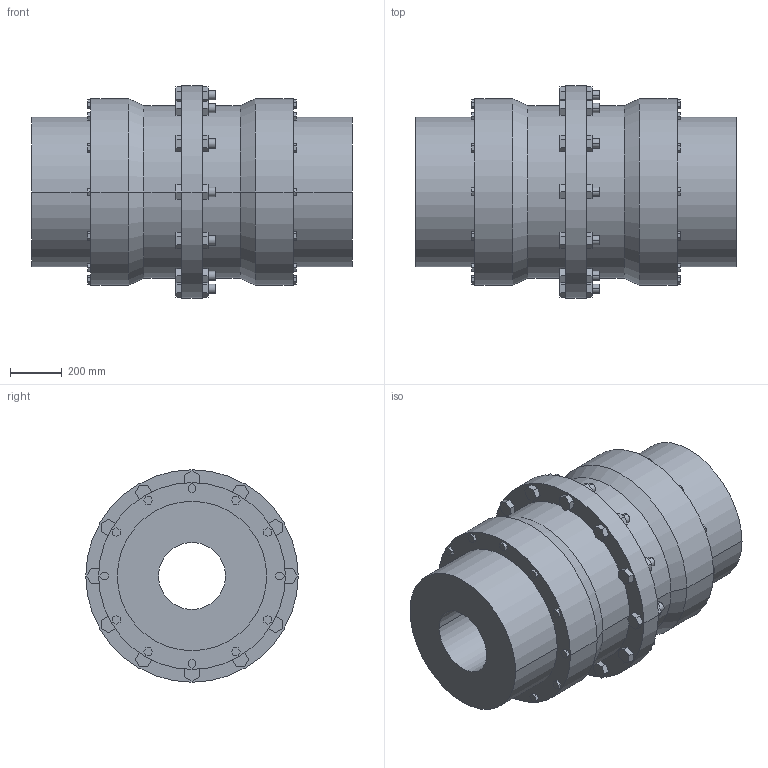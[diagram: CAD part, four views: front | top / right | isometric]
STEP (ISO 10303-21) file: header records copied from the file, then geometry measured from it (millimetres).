
FILE_DESCRIPTION((''),'2;1');
FILE_NAME('A19716700-0_ASM','2019-05-23T',('AB_Roschiwal'),('RENK AG'),'PRO/ENGINEER BY PARAMETRIC TECHNOLOGY CORPORATION, 2015440','PRO/ENGINEER BY PARAMETRIC TECHNOLOGY CORPORATION, 2015440','');
FILE_SCHEMA(('CONFIG_CONTROL_DESIGN'));
Length unit declared in the file: millimetre
Products named in the file (3): SBK355_GEHAEUSE; SBK355_NABE; A19716700-0_ASM
Assembly tree (3 placements, depth 2):
  A19716700-0_ASM
    SBK355_GEHAEUSE
    SBK355_NABE  x2
Bounding box: 1243 x 825 x 825 mm (x, y, z)
Volume: 263843582.4 mm3; surface area: 7194319.8 mm2
Topology: 3 solids, 3 shells, 422 faces, 1036 edges, 688 vertices
Faces by surface type: plane 362, cylinder 56, cone 4
Entity records: 12052 total; most frequent: CARTESIAN_POINT 2100, ORIENTED_EDGE 2024, DIRECTION 1940, EDGE_CURVE 1012, VECTOR 916, LINE 916, VERTEX_POINT 672, AXIS2_PLACEMENT_3D 512
